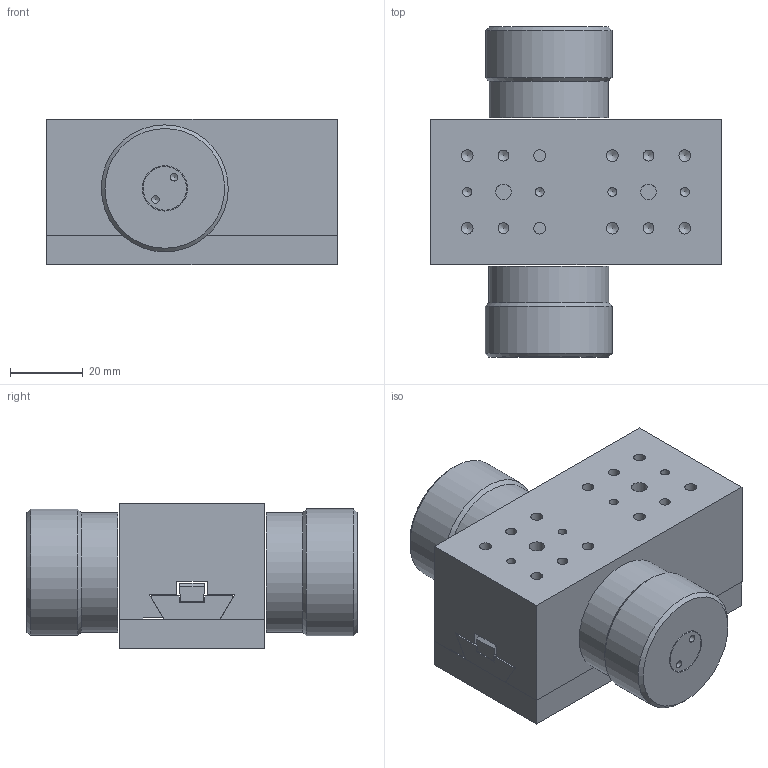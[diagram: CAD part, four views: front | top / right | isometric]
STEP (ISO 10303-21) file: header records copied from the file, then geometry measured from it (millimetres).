
FILE_DESCRIPTION(/* description */ (''),/* implementation_level */ '2;1');
FILE_NAME(/* name */ 'H:\Inventor\Katalog\3D-CAD-Modelle\STP neu\B40-G-CAD.stp',/* time_stamp */ '2024-02-23T07:42:33+01:00',/* author */ ('KON3'),/* organization */ (''),/* preprocessor_version */ 'ST-DEVELOPER v18',/* originating_system */ 'Autodesk Inventor 2020',/* authorisation */ '');
FILE_SCHEMA (('AUTOMOTIVE_DESIGN { 1 0 10303 214 3 1 1 }'));
Length unit declared in the file: millimetre
Products named in the file (3): B40-G-CAD; B40-G_unten; B40-G_oben
Assembly tree (2 placements, depth 2):
  B40-G-CAD
    B40-G_unten
    B40-G_oben
Bounding box: 80 x 91 x 40 mm (x, y, z)
Volume: 163220.1 mm3; surface area: 49249.9 mm2
Topology: 14 solids, 14 shells, 281 faces, 758 edges, 538 vertices
Faces by surface type: plane 123, cylinder 100, cone 46, torus 12
Full cylindrical faces by diameter (mm): 2.013 x2, 2.1 x4, 2.459 x10, 2.6 x2, 3 x12, 3.05 x2, 3.242 x8, 3.3 x4, 3.5 x2, 4.134 x4, 4.3 x2, 4.5 x6, 5.459 x2, 5.5 x6, 6 x6, 8 x10, 12 x2, 12.5 x2, 15 x2, 24.5 x2, 33 x2, 35 x2
Entity records: 9483 total; most frequent: DIRECTION 1664, CARTESIAN_POINT 1608, ORIENTED_EDGE 1456, EDGE_CURVE 728, AXIS2_PLACEMENT_3D 678, VERTEX_POINT 538, EDGE_LOOP 392, CIRCLE 392
